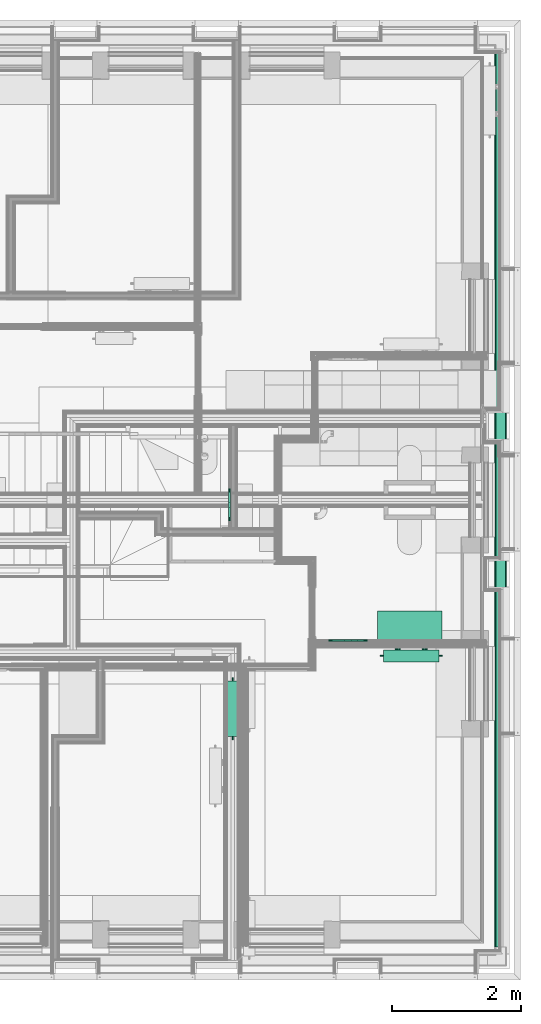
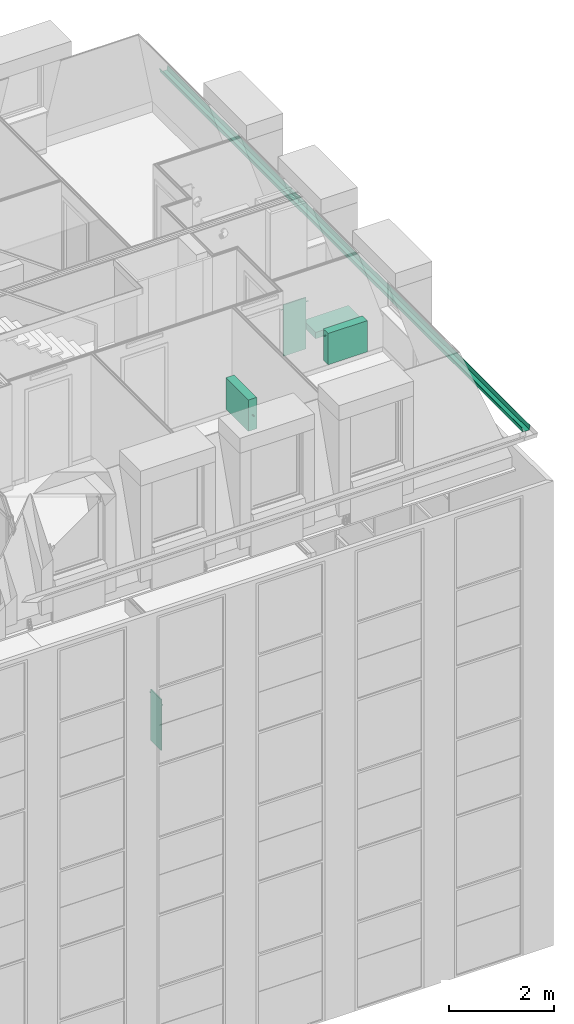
# One storey, part 152 of 169: 5 flow terminals, 1 flow fitting.
"""IFC2X3 building model written with IfcOpenShell, lengths in metres."""

from ifc_helpers import new_model, entity, si_unit, converted_unit, derived_unit, money_unit, direction, frame, origin_with_axes, place, context, subcontext, project, spatial, open_shell, faceted_brep, surface_model, material, type_object, element, save


model = new_model("IFC2X3")

# Units and contexts
model_context = context("Model", 3, precision=1e-05, world=origin_with_axes(), true_north=direction((0.0, 1.0)))
body_context = subcontext(model_context, "Body", "Model", "MODEL_VIEW", scale=1.0)
ifc_project = project(units=[si_unit("LENGTHUNIT", "METRE"), si_unit("AREAUNIT", "SQUARE_METRE"), si_unit("VOLUMEUNIT", "CUBIC_METRE"), si_unit("ABSORBEDDOSEUNIT", "GRAY"), si_unit("AMOUNTOFSUBSTANCEUNIT", "MOLE"), si_unit("DOSEEQUIVALENTUNIT", "SIEVERT"), si_unit("ELECTRICCAPACITANCEUNIT", "FARAD"), si_unit("ELECTRICCHARGEUNIT", "COULOMB"), si_unit("ELECTRICCONDUCTANCEUNIT", "SIEMENS"), si_unit("ELECTRICCURRENTUNIT", "AMPERE"), si_unit("ELECTRICRESISTANCEUNIT", "OHM"), si_unit("ELECTRICVOLTAGEUNIT", "VOLT"), si_unit("ENERGYUNIT", "JOULE"), si_unit("FORCEUNIT", "NEWTON"), si_unit("FREQUENCYUNIT", "HERTZ"), si_unit("ILLUMINANCEUNIT", "LUX"), si_unit("INDUCTANCEUNIT", "HENRY"), si_unit("LUMINOUSFLUXUNIT", "LUMEN"), si_unit("LUMINOUSINTENSITYUNIT", "CANDELA"), si_unit("MAGNETICFLUXDENSITYUNIT", "TESLA"), si_unit("MAGNETICFLUXUNIT", "WEBER"), si_unit("MASSUNIT", "GRAM"), converted_unit("PLANEANGLEUNIT", "degree", entity("IfcReal", 0.0174532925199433), si_unit("PLANEANGLEUNIT", "RADIAN"), dimensions=[0, 0, 0, 0, 0, 0, 0]), si_unit("POWERUNIT", "WATT"), si_unit("PRESSUREUNIT", "PASCAL"), si_unit("RADIOACTIVITYUNIT", "BECQUEREL"), si_unit("SOLIDANGLEUNIT", "STERADIAN"), si_unit("THERMODYNAMICTEMPERATUREUNIT", "KELVIN"), si_unit("TIMEUNIT", "SECOND"), derived_unit("ACCELERATIONUNIT", [(si_unit("LENGTHUNIT", "METRE"), 1), (si_unit("TIMEUNIT", "SECOND"), -2)]), derived_unit("ANGULARVELOCITYUNIT", [(converted_unit("PLANEANGLEUNIT", "degree", entity("IfcReal", 0.0174532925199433), si_unit("PLANEANGLEUNIT", "RADIAN"), dimensions=[0, 0, 0, 0, 0, 0, 0]), 1), (si_unit("TIMEUNIT", "SECOND"), -1)]), derived_unit("CURVATUREUNIT", [(converted_unit("PLANEANGLEUNIT", "degree", entity("IfcReal", 0.0174532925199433), si_unit("PLANEANGLEUNIT", "RADIAN"), dimensions=[0, 0, 0, 0, 0, 0, 0]), 1), (si_unit("LENGTHUNIT", "METRE"), -1)]), derived_unit("DYNAMICVISCOSITYUNIT", [(si_unit("PRESSUREUNIT", "PASCAL"), 1), (si_unit("TIMEUNIT", "SECOND"), 1)]), derived_unit("HEATFLUXDENSITYUNIT", [(si_unit("POWERUNIT", "WATT"), 1), (si_unit("LENGTHUNIT", "METRE"), -2)]), derived_unit("HEATINGVALUEUNIT", [(si_unit("ENERGYUNIT", "JOULE"), 1), (si_unit("MASSUNIT", "GRAM"), -1)]), derived_unit("INTEGERCOUNTRATEUNIT", [(si_unit("TIMEUNIT", "SECOND"), -1)]), derived_unit("IONCONCENTRATIONUNIT", [(si_unit("MASSUNIT", "GRAM"), 1), (si_unit("VOLUMEUNIT", "CUBIC_METRE"), -1)]), derived_unit("ISOTHERMALMOISTURECAPACITYUNIT", [(si_unit("VOLUMEUNIT", "CUBIC_METRE"), 1), (si_unit("MASSUNIT", "GRAM"), -1)]), derived_unit("KINEMATICVISCOSITYUNIT", [(si_unit("AREAUNIT", "SQUARE_METRE"), 1), (si_unit("TIMEUNIT", "SECOND"), -1)]), derived_unit("LINEARFORCEUNIT", [(si_unit("FORCEUNIT", "NEWTON"), 1), (si_unit("LENGTHUNIT", "METRE"), -1)]), derived_unit("LINEARMOMENTUNIT", [(si_unit("FORCEUNIT", "NEWTON"), 1), (si_unit("LENGTHUNIT", "METRE"), -1)]), derived_unit("LINEARSTIFFNESSUNIT", [(si_unit("FORCEUNIT", "NEWTON"), 1), (si_unit("LENGTHUNIT", "METRE"), -1)]), derived_unit("LINEARVELOCITYUNIT", [(si_unit("LENGTHUNIT", "METRE"), 1), (si_unit("TIMEUNIT", "SECOND"), -1)]), derived_unit("LUMINOUSINTENSITYDISTRIBUTIONUNIT", [(si_unit("LUMINOUSINTENSITYUNIT", "CANDELA"), 1), (si_unit("LUMINOUSFLUXUNIT", "LUMEN"), -1)]), derived_unit("MASSDENSITYUNIT", [(si_unit("MASSUNIT", "GRAM"), 1), (si_unit("VOLUMEUNIT", "CUBIC_METRE"), -1)]), derived_unit("MASSFLOWRATEUNIT", [(si_unit("MASSUNIT", "GRAM"), 1), (si_unit("TIMEUNIT", "SECOND"), -1)]), derived_unit("MASSPERLENGTHUNIT", [(si_unit("MASSUNIT", "GRAM"), 1), (si_unit("LENGTHUNIT", "METRE"), -1)]), derived_unit("MODULUSOFELASTICITYUNIT", [(si_unit("FORCEUNIT", "NEWTON"), 1), (si_unit("AREAUNIT", "SQUARE_METRE"), -1)]), derived_unit("MODULUSOFLINEARSUBGRADEREACTIONUNIT", [(si_unit("FORCEUNIT", "NEWTON"), 1), (si_unit("LENGTHUNIT", "METRE"), -2)]), derived_unit("MODULUSOFROTATIONALSUBGRADEREACTIONUNIT", [(si_unit("FORCEUNIT", "NEWTON"), 1), (si_unit("LENGTHUNIT", "METRE"), 1)]), derived_unit("MODULUSOFSUBGRADEREACTIONUNIT", [(si_unit("FORCEUNIT", "NEWTON"), 1), (si_unit("VOLUMEUNIT", "CUBIC_METRE"), -1)]), derived_unit("MOISTUREDIFFUSIVITYUNIT", [(si_unit("VOLUMEUNIT", "CUBIC_METRE"), 1), (si_unit("TIMEUNIT", "SECOND"), -1)]), derived_unit("MOLECULARWEIGHTUNIT", [(si_unit("MASSUNIT", "GRAM"), 1), (si_unit("AMOUNTOFSUBSTANCEUNIT", "MOLE"), -1)]), derived_unit("PLANARFORCEUNIT", [(si_unit("FORCEUNIT", "NEWTON"), 1), (si_unit("LENGTHUNIT", "METRE"), -2)]), derived_unit("ROTATIONALFREQUENCYUNIT", [(si_unit("TIMEUNIT", "SECOND"), -1)]), derived_unit("ROTATIONALMASSUNIT", [(si_unit("MASSUNIT", "GRAM"), 1), (si_unit("LENGTHUNIT", "METRE"), 2)]), derived_unit("ROTATIONALSTIFFNESSUNIT", [(si_unit("FORCEUNIT", "NEWTON"), 1), (si_unit("LENGTHUNIT", "METRE"), 1), (converted_unit("PLANEANGLEUNIT", "degree", entity("IfcReal", 0.0174532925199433), si_unit("PLANEANGLEUNIT", "RADIAN"), dimensions=[0, 0, 0, 0, 0, 0, 0]), -1)]), derived_unit("SECTIONAREAINTEGRALUNIT", [(si_unit("LENGTHUNIT", "METRE"), 5)]), derived_unit("SECTIONMODULUSUNIT", [(si_unit("LENGTHUNIT", "METRE"), 3)]), derived_unit("SHEARMODULUSUNIT", [(si_unit("FORCEUNIT", "NEWTON"), 1), (si_unit("AREAUNIT", "SQUARE_METRE"), -1)]), derived_unit("SOUNDPOWERUNIT", [(si_unit("ENERGYUNIT", "JOULE"), 1), (si_unit("TIMEUNIT", "SECOND"), -1)]), derived_unit("SPECIFICHEATCAPACITYUNIT", [(si_unit("FORCEUNIT", "NEWTON"), 1), (si_unit("MASSUNIT", "GRAM"), -1), (si_unit("THERMODYNAMICTEMPERATUREUNIT", "KELVIN"), -1)]), derived_unit("TEMPERATUREGRADIENTUNIT", [(si_unit("THERMODYNAMICTEMPERATUREUNIT", "KELVIN"), 1), (si_unit("LENGTHUNIT", "METRE"), -1)]), derived_unit("THERMALADMITTANCEUNIT", [(si_unit("POWERUNIT", "WATT"), 1), (si_unit("AREAUNIT", "SQUARE_METRE"), -1), (si_unit("THERMODYNAMICTEMPERATUREUNIT", "KELVIN"), -1)]), derived_unit("THERMALCONDUCTANCEUNIT", [(si_unit("POWERUNIT", "WATT"), 1), (si_unit("LENGTHUNIT", "METRE"), -1), (si_unit("THERMODYNAMICTEMPERATUREUNIT", "KELVIN"), -1)]), derived_unit("THERMALEXPANSIONCOEFFICIENTUNIT", [(si_unit("THERMODYNAMICTEMPERATUREUNIT", "KELVIN"), -1)]), derived_unit("THERMALRESISTANCEUNIT", [(si_unit("AREAUNIT", "SQUARE_METRE"), 1), (si_unit("POWERUNIT", "WATT"), -1)]), derived_unit("THERMALTRANSMITTANCEUNIT", [(si_unit("POWERUNIT", "WATT"), 1), (si_unit("AREAUNIT", "SQUARE_METRE"), -1), (si_unit("THERMODYNAMICTEMPERATUREUNIT", "KELVIN"), -1)]), derived_unit("TORQUEUNIT", [(si_unit("FORCEUNIT", "NEWTON"), 1), (si_unit("LENGTHUNIT", "METRE"), 1)]), derived_unit("VAPORPERMEABILITYUNIT", [(si_unit("MASSUNIT", "GRAM"), 1), (si_unit("TIMEUNIT", "SECOND"), -1)]), derived_unit("VOLUMETRICFLOWRATEUNIT", [(si_unit("VOLUMEUNIT", "CUBIC_METRE"), 1), (si_unit("TIMEUNIT", "SECOND"), -1)]), derived_unit("WARPINGCONSTANTUNIT", [(si_unit("LENGTHUNIT", "METRE"), 6)]), derived_unit("WARPINGMOMENTUNIT", [(si_unit("FORCEUNIT", "NEWTON"), 1), (si_unit("LENGTHUNIT", "METRE"), 2)]), money_unit("GBP")], contexts=[model_context])

# Site, building, storey
site_placement = place(None, origin_with_axes())
site = spatial("IfcSite", under=ifc_project, at=site_placement, Name="Site", CompositionType="ELEMENT")
building_placement = place(site_placement, origin_with_axes())
building = spatial("IfcBuilding", under=site, at=building_placement, Name="Building01", CompositionType="ELEMENT")
storey_placement = place(building_placement, frame((0.0, 0.0, 5.15), z_axis=(0.0, 0.0, 1.0), x_axis=(1.0, 0.0, 0.0)))
storey = spatial("IfcBuildingStorey", under=building, at=storey_placement, Name="1F", CompositionType="ELEMENT", Elevation=5.15)

# Flow fitting
ifc_material_1 = material(Name="A_BSUK_RainwaterDrainageSystems")
pipe_fitting_type = type_object("IfcPipeFittingType", Name="A-RainwaterDrainageSystems-GutterStraight", PredefinedType="NOTDEFINED")
flow_fitting_placement = place(storey_placement, frame((26.576848, 14.385347, 10.629268), z_axis=(0.0, 0.0, 1.0), x_axis=(0.0, -1.0, 0.0)))
element("IfcFlowFitting", 1, at=flow_fitting_placement, inside=storey, type_object=pipe_fitting_type, material=ifc_material_1, Name="A-RainwaterDrainageSystems-GutterStraight", ObjectType="A-RainwaterDrainageSystems-GutterStraight", context=body_context, shape_type="Brep", body=[
    faceted_brep([(13.871001, 0.0, 0.100732), (1e-06, 0.0, 0.100732), (1e-06, 0.0, 0.099144), (13.871001, 0.0, 0.099145), (13.871001, 0.005654, 0.099145), (1e-06, 0.005654, 0.099144), (1e-06, 0.018707, 0.0), (13.871001, 0.018707, 0.0), (1e-06, 0.170099, 0.0), (13.871001, 0.170099, 0.0), (1e-06, 0.183152, 0.099144), (13.871001, 0.183152, 0.099145), (1e-06, 0.188806, 0.099144), (13.871001, 0.188806, 0.099145), (1e-06, 0.188806, 0.100732), (13.871001, 0.188806, 0.100732), (1e-06, 0.18176, 0.100732), (13.871001, 0.18176, 0.100732), (1e-06, 0.168707, 0.001588), (13.871001, 0.168707, 0.001588), (1e-06, 0.020099, 0.001588), (13.871001, 0.020099, 0.001588), (1e-06, 0.007047, 0.100732), (13.871001, 0.007047, 0.100732)], [[[0, 1, 2, 3]], [[4, 5, 6, 7]], [[7, 6, 8, 9]], [[9, 8, 10, 11]], [[11, 10, 12, 13]], [[13, 12, 14, 15]], [[15, 14, 16, 17]], [[17, 16, 18, 19]], [[19, 18, 20, 21]], [[21, 20, 22, 23]], [[23, 22, 1, 0]], [[3, 4, 7, 9, 11, 13, 15, 17, 19, 21, 23, 0]], [[3, 2, 5, 4]], [[1, 22, 20, 18, 16, 14, 12, 10, 8, 6, 5, 2]]]),
])

# Space
space_1_placement = place(storey_placement, frame((17.73844, 7.349915, 9.86), z_axis=(0.0, 0.0, 1.0), x_axis=(0.0, -1.0, 0.0)))
space_1 = spatial("IfcSpace", under=storey, at=space_1_placement, Name="24", CompositionType="ELEMENT", InteriorOrExteriorSpace="NOTDEFINED")

# Flow terminals
ifc_material_2 = material(Name="M_BSUK_Ventilation")
space_heater_type_1 = type_object("IfcSpaceHeaterType", Name="M-BmvRadiatorpanel-Panel", PredefinedType="NOTDEFINED")
flow_terminal_1_placement = place(storey_placement, frame((22.514774, 3.777439, 10.495), z_axis=(0.0, 0.0, 1.0), x_axis=(0.0, -1.0, 0.0)))
element("IfcFlowTerminal", 2, at=flow_terminal_1_placement, inside=space_1, type_object=space_heater_type_1, material=ifc_material_2, Name="M-BmvRadiatorpanel-Panel", ObjectType="M-BmvRadiatorpanel-Panel", context=body_context, shape_type="SurfaceModel", body=[
    surface_model("IfcShellBasedSurfaceModel", [(-0.865, -0.0925, 0.365), (-0.865, 0.0925, 0.365), (0.0, 0.0925, 0.365), (0.0, -0.0925, 0.365), (-0.865, -0.0925, -0.365), (-0.865, 0.0925, -0.365), (0.0, -0.0925, -0.365), (0.0, 0.0925, -0.365), (-0.1325, 0.12025, 0.175), (-0.7325, 0.12025, 0.175), (-0.7325, 0.14525, 0.175), (-0.1325, 0.14525, 0.175), (-0.7325, 0.14525, -0.175), (-0.1325, 0.14525, -0.175), (-0.7325, 0.12025, -0.175), (-0.1325, 0.12025, -0.175), (-0.2225, 0.0925, 0.0775), (-0.2225, 0.12025, 0.0775), (-0.205279, 0.12025, 0.080925), (-0.205279, 0.0925, 0.080925), (-0.19068, 0.12025, 0.09068), (-0.19068, 0.0925, 0.09068), (-0.180925, 0.12025, 0.105279), (-0.180925, 0.0925, 0.105279), (-0.1775, 0.12025, 0.1225), (-0.1775, 0.0925, 0.1225), (-0.180925, 0.12025, 0.139721), (-0.180925, 0.0925, 0.139721), (-0.19068, 0.12025, 0.15432), (-0.19068, 0.0925, 0.15432), (-0.205279, 0.12025, 0.164075), (-0.205279, 0.0925, 0.164075), (-0.2225, 0.12025, 0.1675), (-0.2225, 0.0925, 0.1675), (-0.239721, 0.12025, 0.164075), (-0.239721, 0.0925, 0.164075), (-0.25432, 0.12025, 0.15432), (-0.25432, 0.0925, 0.15432), (-0.264075, 0.12025, 0.139721), (-0.264075, 0.0925, 0.139721), (-0.2675, 0.12025, 0.1225), (-0.2675, 0.0925, 0.1225), (-0.264075, 0.12025, 0.105279), (-0.264075, 0.0925, 0.105279), (-0.25432, 0.12025, 0.09068), (-0.25432, 0.0925, 0.09068), (-0.239721, 0.12025, 0.080925), (-0.239721, 0.0925, 0.080925), (-0.6425, 0.0925, 0.0775), (-0.6425, 0.12025, 0.0775), (-0.625279, 0.12025, 0.080925), (-0.625279, 0.0925, 0.080925), (-0.61068, 0.12025, 0.09068), (-0.61068, 0.0925, 0.09068), (-0.600925, 0.12025, 0.105279), (-0.600925, 0.0925, 0.105279), (-0.5975, 0.12025, 0.1225), (-0.5975, 0.0925, 0.1225), (-0.600925, 0.12025, 0.139721), (-0.600925, 0.0925, 0.139721), (-0.61068, 0.12025, 0.15432), (-0.61068, 0.0925, 0.15432), (-0.625279, 0.12025, 0.164075), (-0.625279, 0.0925, 0.164075), (-0.6425, 0.12025, 0.1675), (-0.6425, 0.0925, 0.1675), (-0.659721, 0.12025, 0.164075), (-0.659721, 0.0925, 0.164075), (-0.67432, 0.12025, 0.15432), (-0.67432, 0.0925, 0.15432), (-0.684075, 0.12025, 0.139721), (-0.684075, 0.0925, 0.139721), (-0.6875, 0.12025, 0.1225), (-0.6875, 0.0925, 0.1225), (-0.684075, 0.12025, 0.105279), (-0.684075, 0.0925, 0.105279), (-0.67432, 0.12025, 0.09068), (-0.67432, 0.0925, 0.09068), (-0.659721, 0.12025, 0.080925), (-0.659721, 0.0925, 0.080925), (0.05, 0.0, -0.0225), (0.0, 0.0, -0.0225), (0.0, 0.004784, -0.021548), (0.05, 0.004784, -0.021548), (0.0, 0.008839, -0.018839), (0.05, 0.008839, -0.018839), (0.0, 0.011548, -0.014784), (0.05, 0.011548, -0.014784), (0.0, 0.0125, -0.01), (0.05, 0.0125, -0.01), (0.0, 0.011548, -0.005216), (0.05, 0.011548, -0.005216), (0.0, 0.008839, -0.001161), (0.05, 0.008839, -0.001161), (0.0, 0.004784, 0.001548), (0.05, 0.004784, 0.001548), (0.0, 0.0, 0.0025), (0.05, 0.0, 0.0025), (0.0, -0.004784, 0.001548), (0.05, -0.004784, 0.001548), (0.0, -0.008839, -0.001161), (0.05, -0.008839, -0.001161), (0.0, -0.011548, -0.005216), (0.05, -0.011548, -0.005216), (0.0, -0.0125, -0.01), (0.05, -0.0125, -0.01), (0.0, -0.011548, -0.014784), (0.05, -0.011548, -0.014784), (0.0, -0.008839, -0.018839), (0.05, -0.008839, -0.018839), (0.0, -0.004784, -0.021548), (0.05, -0.004784, -0.021548), (-0.915, 0.0, 0.2525), (-0.865, 0.0, 0.2525), (-0.865, -0.004784, 0.253452), (-0.915, -0.004784, 0.253452), (-0.865, -0.008839, 0.256161), (-0.915, -0.008839, 0.256161), (-0.865, -0.011548, 0.260216), (-0.915, -0.011548, 0.260216), (-0.865, -0.0125, 0.265), (-0.915, -0.0125, 0.265), (-0.865, -0.011548, 0.269784), (-0.915, -0.011548, 0.269784), (-0.865, -0.008839, 0.273839), (-0.915, -0.008839, 0.273839), (-0.865, -0.004784, 0.276548), (-0.915, -0.004784, 0.276548), (-0.865, 0.0, 0.2775), (-0.915, 0.0, 0.2775), (-0.865, 0.004784, 0.276548), (-0.915, 0.004784, 0.276548), (-0.865, 0.008839, 0.273839), (-0.915, 0.008839, 0.273839), (-0.865, 0.011548, 0.269784), (-0.915, 0.011548, 0.269784), (-0.865, 0.0125, 0.265), (-0.915, 0.0125, 0.265), (-0.865, 0.011548, 0.260216), (-0.915, 0.011548, 0.260216), (-0.865, 0.008839, 0.256161), (-0.915, 0.008839, 0.256161), (-0.865, 0.004784, 0.253452), (-0.915, 0.004784, 0.253452)], [open_shell([[[0, 1, 2, 3]], [[4, 5, 1, 0]], [[6, 7, 5, 4]], [[3, 2, 7, 6]], [[1, 5, 7, 2]], [[3, 6, 4, 0]], [[8, 9, 10, 11]], [[11, 10, 12, 13]], [[13, 12, 14, 15]], [[15, 14, 9, 8]], [[9, 14, 12, 10]], [[11, 13, 15, 8]], [[16, 17, 18, 19]], [[19, 18, 20, 21]], [[21, 20, 22, 23]], [[23, 22, 24, 25]], [[25, 24, 26, 27]], [[27, 26, 28, 29]], [[29, 28, 30, 31]], [[31, 30, 32, 33]], [[33, 32, 34, 35]], [[35, 34, 36, 37]], [[37, 36, 38, 39]], [[39, 38, 40, 41]], [[41, 40, 42, 43]], [[43, 42, 44, 45]], [[45, 44, 46, 47]], [[47, 46, 17, 16]], [[48, 49, 50, 51]], [[51, 50, 52, 53]], [[53, 52, 54, 55]], [[55, 54, 56, 57]], [[57, 56, 58, 59]], [[59, 58, 60, 61]], [[61, 60, 62, 63]], [[63, 62, 64, 65]], [[65, 64, 66, 67]], [[67, 66, 68, 69]], [[69, 68, 70, 71]], [[71, 70, 72, 73]], [[73, 72, 74, 75]], [[75, 74, 76, 77]], [[77, 76, 78, 79]], [[79, 78, 49, 48]], [[80, 81, 82, 83]], [[83, 82, 84, 85]], [[85, 84, 86, 87]], [[87, 86, 88, 89]], [[89, 88, 90, 91]], [[91, 90, 92, 93]], [[93, 92, 94, 95]], [[95, 94, 96, 97]], [[97, 96, 98, 99]], [[99, 98, 100, 101]], [[101, 100, 102, 103]], [[103, 102, 104, 105]], [[105, 104, 106, 107]], [[107, 106, 108, 109]], [[109, 108, 110, 111]], [[111, 110, 81, 80]], [[112, 113, 114, 115]], [[115, 114, 116, 117]], [[117, 116, 118, 119]], [[119, 118, 120, 121]], [[121, 120, 122, 123]], [[123, 122, 124, 125]], [[125, 124, 126, 127]], [[127, 126, 128, 129]], [[129, 128, 130, 131]], [[131, 130, 132, 133]], [[133, 132, 134, 135]], [[135, 134, 136, 137]], [[137, 136, 138, 139]], [[139, 138, 140, 141]], [[141, 140, 142, 143]], [[143, 142, 113, 112]]])]),
])
flow_terminal_2_placement = place(storey_placement, frame((25.717389, 5.029726, 10.495), z_axis=(0.0, 0.0, 1.0), x_axis=(1.0, 0.0, 0.0)))
element("IfcFlowTerminal", 3, at=flow_terminal_2_placement, inside=space_1, type_object=space_heater_type_1, material=ifc_material_2, Name="M-BmvRadiatorpanel-Panel", ObjectType="M-BmvRadiatorpanel-Panel", context=body_context, shape_type="SurfaceModel", body=[
    surface_model("IfcShellBasedSurfaceModel", [(-0.865, -0.0925, 0.365), (-0.865, 0.0925, 0.365), (0.0, 0.0925, 0.365), (0.0, -0.0925, 0.365), (-0.865, -0.0925, -0.365), (-0.865, 0.0925, -0.365), (0.0, -0.0925, -0.365), (0.0, 0.0925, -0.365), (-0.1325, 0.12025, 0.175), (-0.7325, 0.12025, 0.175), (-0.7325, 0.14525, 0.175), (-0.1325, 0.14525, 0.175), (-0.7325, 0.14525, -0.175), (-0.1325, 0.14525, -0.175), (-0.7325, 0.12025, -0.175), (-0.1325, 0.12025, -0.175), (-0.2225, 0.0925, 0.0775), (-0.2225, 0.12025, 0.0775), (-0.205279, 0.12025, 0.080925), (-0.205279, 0.0925, 0.080925), (-0.19068, 0.12025, 0.09068), (-0.19068, 0.0925, 0.09068), (-0.180925, 0.12025, 0.105279), (-0.180925, 0.0925, 0.105279), (-0.1775, 0.12025, 0.1225), (-0.1775, 0.0925, 0.1225), (-0.180925, 0.12025, 0.139721), (-0.180925, 0.0925, 0.139721), (-0.19068, 0.12025, 0.15432), (-0.19068, 0.0925, 0.15432), (-0.205279, 0.12025, 0.164075), (-0.205279, 0.0925, 0.164075), (-0.2225, 0.12025, 0.1675), (-0.2225, 0.0925, 0.1675), (-0.239721, 0.12025, 0.164075), (-0.239721, 0.0925, 0.164075), (-0.25432, 0.12025, 0.15432), (-0.25432, 0.0925, 0.15432), (-0.264075, 0.12025, 0.139721), (-0.264075, 0.0925, 0.139721), (-0.2675, 0.12025, 0.1225), (-0.2675, 0.0925, 0.1225), (-0.264075, 0.12025, 0.105279), (-0.264075, 0.0925, 0.105279), (-0.25432, 0.12025, 0.09068), (-0.25432, 0.0925, 0.09068), (-0.239721, 0.12025, 0.080925), (-0.239721, 0.0925, 0.080925), (-0.6425, 0.0925, 0.0775), (-0.6425, 0.12025, 0.0775), (-0.625279, 0.12025, 0.080925), (-0.625279, 0.0925, 0.080925), (-0.61068, 0.12025, 0.09068), (-0.61068, 0.0925, 0.09068), (-0.600925, 0.12025, 0.105279), (-0.600925, 0.0925, 0.105279), (-0.5975, 0.12025, 0.1225), (-0.5975, 0.0925, 0.1225), (-0.600925, 0.12025, 0.139721), (-0.600925, 0.0925, 0.139721), (-0.61068, 0.12025, 0.15432), (-0.61068, 0.0925, 0.15432), (-0.625279, 0.12025, 0.164075), (-0.625279, 0.0925, 0.164075), (-0.6425, 0.12025, 0.1675), (-0.6425, 0.0925, 0.1675), (-0.659721, 0.12025, 0.164075), (-0.659721, 0.0925, 0.164075), (-0.67432, 0.12025, 0.15432), (-0.67432, 0.0925, 0.15432), (-0.684075, 0.12025, 0.139721), (-0.684075, 0.0925, 0.139721), (-0.6875, 0.12025, 0.1225), (-0.6875, 0.0925, 0.1225), (-0.684075, 0.12025, 0.105279), (-0.684075, 0.0925, 0.105279), (-0.67432, 0.12025, 0.09068), (-0.67432, 0.0925, 0.09068), (-0.659721, 0.12025, 0.080925), (-0.659721, 0.0925, 0.080925), (0.05, 0.0, -0.0225), (0.0, 0.0, -0.0225), (0.0, 0.004784, -0.021548), (0.05, 0.004784, -0.021548), (0.0, 0.008839, -0.018839), (0.05, 0.008839, -0.018839), (0.0, 0.011548, -0.014784), (0.05, 0.011548, -0.014784), (0.0, 0.0125, -0.01), (0.05, 0.0125, -0.01), (0.0, 0.011548, -0.005216), (0.05, 0.011548, -0.005216), (0.0, 0.008839, -0.001161), (0.05, 0.008839, -0.001161), (0.0, 0.004784, 0.001548), (0.05, 0.004784, 0.001548), (0.0, 0.0, 0.0025), (0.05, 0.0, 0.0025), (0.0, -0.004784, 0.001548), (0.05, -0.004784, 0.001548), (0.0, -0.008839, -0.001161), (0.05, -0.008839, -0.001161), (0.0, -0.011548, -0.005216), (0.05, -0.011548, -0.005216), (0.0, -0.0125, -0.01), (0.05, -0.0125, -0.01), (0.0, -0.011548, -0.014784), (0.05, -0.011548, -0.014784), (0.0, -0.008839, -0.018839), (0.05, -0.008839, -0.018839), (0.0, -0.004784, -0.021548), (0.05, -0.004784, -0.021548), (-0.915, 0.0, 0.2525), (-0.865, 0.0, 0.2525), (-0.865, -0.004784, 0.253452), (-0.915, -0.004784, 0.253452), (-0.865, -0.008839, 0.256161), (-0.915, -0.008839, 0.256161), (-0.865, -0.011548, 0.260216), (-0.915, -0.011548, 0.260216), (-0.865, -0.0125, 0.265), (-0.915, -0.0125, 0.265), (-0.865, -0.011548, 0.269784), (-0.915, -0.011548, 0.269784), (-0.865, -0.008839, 0.273839), (-0.915, -0.008839, 0.273839), (-0.865, -0.004784, 0.276548), (-0.915, -0.004784, 0.276548), (-0.865, 0.0, 0.2775), (-0.915, 0.0, 0.2775), (-0.865, 0.004784, 0.276548), (-0.915, 0.004784, 0.276548), (-0.865, 0.008839, 0.273839), (-0.915, 0.008839, 0.273839), (-0.865, 0.011548, 0.269784), (-0.915, 0.011548, 0.269784), (-0.865, 0.0125, 0.265), (-0.915, 0.0125, 0.265), (-0.865, 0.011548, 0.260216), (-0.915, 0.011548, 0.260216), (-0.865, 0.008839, 0.256161), (-0.915, 0.008839, 0.256161), (-0.865, 0.004784, 0.253452), (-0.915, 0.004784, 0.253452)], [open_shell([[[0, 1, 2, 3]], [[4, 5, 1, 0]], [[6, 7, 5, 4]], [[3, 2, 7, 6]], [[1, 5, 7, 2]], [[3, 6, 4, 0]], [[8, 9, 10, 11]], [[11, 10, 12, 13]], [[13, 12, 14, 15]], [[15, 14, 9, 8]], [[9, 14, 12, 10]], [[11, 13, 15, 8]], [[16, 17, 18, 19]], [[19, 18, 20, 21]], [[21, 20, 22, 23]], [[23, 22, 24, 25]], [[25, 24, 26, 27]], [[27, 26, 28, 29]], [[29, 28, 30, 31]], [[31, 30, 32, 33]], [[33, 32, 34, 35]], [[35, 34, 36, 37]], [[37, 36, 38, 39]], [[39, 38, 40, 41]], [[41, 40, 42, 43]], [[43, 42, 44, 45]], [[45, 44, 46, 47]], [[47, 46, 17, 16]], [[48, 49, 50, 51]], [[51, 50, 52, 53]], [[53, 52, 54, 55]], [[55, 54, 56, 57]], [[57, 56, 58, 59]], [[59, 58, 60, 61]], [[61, 60, 62, 63]], [[63, 62, 64, 65]], [[65, 64, 66, 67]], [[67, 66, 68, 69]], [[69, 68, 70, 71]], [[71, 70, 72, 73]], [[73, 72, 74, 75]], [[75, 74, 76, 77]], [[77, 76, 78, 79]], [[79, 78, 49, 48]], [[80, 81, 82, 83]], [[83, 82, 84, 85]], [[85, 84, 86, 87]], [[87, 86, 88, 89]], [[89, 88, 90, 91]], [[91, 90, 92, 93]], [[93, 92, 94, 95]], [[95, 94, 96, 97]], [[97, 96, 98, 99]], [[99, 98, 100, 101]], [[101, 100, 102, 103]], [[103, 102, 104, 105]], [[105, 104, 106, 107]], [[107, 106, 108, 109]], [[109, 108, 110, 111]], [[111, 110, 81, 80]], [[112, 113, 114, 115]], [[115, 114, 116, 117]], [[117, 116, 118, 119]], [[119, 118, 120, 121]], [[121, 120, 122, 123]], [[123, 122, 124, 125]], [[125, 124, 126, 127]], [[127, 126, 128, 129]], [[129, 128, 130, 131]], [[131, 130, 132, 133]], [[133, 132, 134, 135]], [[135, 134, 136, 137]], [[137, 136, 138, 139]], [[139, 138, 140, 141]], [[141, 140, 142, 143]], [[143, 142, 113, 112]]])]),
])

# Space
space_2_placement = place(storey_placement, frame((20.122661, 7.25, 0.017975), z_axis=(0.0, 0.0, 1.0), x_axis=(1.0, 0.0, 0.0)))
space_2 = spatial("IfcSpace", under=storey, at=space_2_placement, Name="bath", CompositionType="ELEMENT", InteriorOrExteriorSpace="NOTDEFINED")

# Flow terminals
space_heater_type_2 = type_object("IfcSpaceHeaterType", Name="M-BmvRadiator-Column", PredefinedType="NOTDEFINED")
flow_terminal_3_placement = place(storey_placement, frame((22.464161, 7.175, 1.2), z_axis=(0.0, 0.0, 1.0), x_axis=(0.0, -1.0, 0.0)))
element("IfcFlowTerminal", 4, at=flow_terminal_3_placement, inside=space_2, type_object=space_heater_type_2, material=ifc_material_2, Name="M-BmvRadiator-Column", ObjectType="M-BmvRadiator-Column", context=body_context, shape_type="SurfaceModel", body=[
    surface_model("IfcShellBasedSurfaceModel", [(0.0, -0.0125, 0.6), (0.0, -0.0125, -0.6), (0.0, 0.0125, -0.6), (0.0, 0.0125, 0.6), (-0.4, -0.0125, 0.6), (-0.4, -0.0125, -0.6), (-0.4, 0.0125, -0.6), (-0.4, 0.0125, 0.6), (-0.08, 0.0125, 0.6), (-0.08, -0.0125, 0.6), (-0.08, -0.0125, -0.6), (-0.08, 0.0125, -0.6), (-0.16, 0.0125, 0.6), (-0.16, -0.0125, 0.6), (-0.16, -0.0125, -0.6), (-0.16, 0.0125, -0.6), (-0.24, 0.0125, 0.6), (-0.24, -0.0125, 0.6), (-0.24, -0.0125, -0.6), (-0.24, 0.0125, -0.6), (-0.32, 0.0125, 0.6), (-0.32, -0.0125, 0.6), (-0.32, -0.0125, -0.6), (-0.32, 0.0125, -0.6), (0.05, 0.0, 0.4825), (0.0, 0.0, 0.4825), (0.0, 0.003827, 0.483261), (0.05, 0.003827, 0.483261), (0.0, 0.007071, 0.485429), (0.05, 0.007071, 0.485429), (0.0, 0.009239, 0.488673), (0.05, 0.009239, 0.488673), (0.0, 0.01, 0.4925), (0.05, 0.01, 0.4925), (0.0, 0.009239, 0.496327), (0.05, 0.009239, 0.496327), (0.0, 0.007071, 0.499571), (0.05, 0.007071, 0.499571), (0.0, 0.003827, 0.501739), (0.05, 0.003827, 0.501739), (0.0, 0.0, 0.5025), (0.05, 0.0, 0.5025), (0.0, -0.003827, 0.501739), (0.05, -0.003827, 0.501739), (0.0, -0.007071, 0.499571), (0.05, -0.007071, 0.499571), (0.0, -0.009239, 0.496327), (0.05, -0.009239, 0.496327), (0.0, -0.01, 0.4925), (0.05, -0.01, 0.4925), (0.0, -0.009239, 0.488673), (0.05, -0.009239, 0.488673), (0.0, -0.007071, 0.485429), (0.05, -0.007071, 0.485429), (0.0, -0.003827, 0.483261), (0.05, -0.003827, 0.483261), (-0.45, 0.0, 0.4884), (-0.4, 0.0, 0.4884), (-0.4, -0.003827, 0.489161), (-0.45, -0.003827, 0.489161), (-0.4, -0.007071, 0.491329), (-0.45, -0.007071, 0.491329), (-0.4, -0.009239, 0.494573), (-0.45, -0.009239, 0.494573), (-0.4, -0.01, 0.4984), (-0.45, -0.01, 0.4984), (-0.4, -0.009239, 0.502227), (-0.45, -0.009239, 0.502227), (-0.4, -0.007071, 0.505471), (-0.45, -0.007071, 0.505471), (-0.4, -0.003827, 0.507639), (-0.45, -0.003827, 0.507639), (-0.4, 0.0, 0.5084), (-0.45, 0.0, 0.5084), (-0.4, 0.003827, 0.507639), (-0.45, 0.003827, 0.507639), (-0.4, 0.007071, 0.505471), (-0.45, 0.007071, 0.505471), (-0.4, 0.009239, 0.502227), (-0.45, 0.009239, 0.502227), (-0.4, 0.01, 0.4984), (-0.45, 0.01, 0.4984), (-0.4, 0.009239, 0.494573), (-0.45, 0.009239, 0.494573), (-0.4, 0.007071, 0.491329), (-0.45, 0.007071, 0.491329), (-0.4, 0.003827, 0.489161), (-0.45, 0.003827, 0.489161)], [open_shell([[[0, 1, 2, 3]], [[4, 5, 6, 7]], [[8, 3, 0, 9]], [[9, 0, 1, 10]], [[10, 1, 2, 11]], [[11, 2, 3, 8]], [[12, 8, 9, 13]], [[13, 9, 10, 14]], [[14, 10, 11, 15]], [[15, 11, 8, 12]], [[16, 12, 13, 17]], [[17, 13, 14, 18]], [[18, 14, 15, 19]], [[19, 15, 12, 16]], [[20, 16, 17, 21]], [[21, 17, 18, 22]], [[22, 18, 19, 23]], [[23, 19, 16, 20]], [[7, 20, 21, 4]], [[4, 21, 22, 5]], [[5, 22, 23, 6]], [[6, 23, 20, 7]], [[24, 25, 26, 27]], [[27, 26, 28, 29]], [[29, 28, 30, 31]], [[31, 30, 32, 33]], [[33, 32, 34, 35]], [[35, 34, 36, 37]], [[37, 36, 38, 39]], [[39, 38, 40, 41]], [[41, 40, 42, 43]], [[43, 42, 44, 45]], [[45, 44, 46, 47]], [[47, 46, 48, 49]], [[49, 48, 50, 51]], [[51, 50, 52, 53]], [[53, 52, 54, 55]], [[55, 54, 25, 24]], [[56, 57, 58, 59]], [[59, 58, 60, 61]], [[61, 60, 62, 63]], [[63, 62, 64, 65]], [[65, 64, 66, 67]], [[67, 66, 68, 69]], [[69, 68, 70, 71]], [[71, 70, 72, 73]], [[73, 72, 74, 75]], [[75, 74, 76, 77]], [[77, 76, 78, 79]], [[79, 78, 80, 81]], [[81, 80, 82, 83]], [[83, 82, 84, 85]], [[85, 84, 86, 87]], [[87, 86, 57, 56]]])]),
])
flow_terminal_4_placement = place(storey_placement, frame((24.052355, 5.268454, 11.015), z_axis=(0.0, 0.0, 1.0), x_axis=(1.0, 0.0, 0.0)))
element("IfcFlowTerminal", 5, at=flow_terminal_4_placement, inside=space_1, type_object=space_heater_type_2, material=ifc_material_2, Name="M-BmvRadiator-Column", ObjectType="M-BmvRadiator-Column", context=body_context, shape_type="SurfaceModel", body=[
    surface_model("IfcShellBasedSurfaceModel", [(0.0, -0.0125, 0.6), (0.0, -0.0125, -0.6), (0.0, 0.0125, -0.6), (0.0, 0.0125, 0.6), (0.5, -0.0125, 0.6), (0.5, -0.0125, -0.6), (0.5, 0.0125, -0.6), (0.5, 0.0125, 0.6), (0.1, 0.0125, 0.6), (0.1, -0.0125, 0.6), (0.1, -0.0125, -0.6), (0.1, 0.0125, -0.6), (0.2, 0.0125, 0.6), (0.2, -0.0125, 0.6), (0.2, -0.0125, -0.6), (0.2, 0.0125, -0.6), (0.3, 0.0125, 0.6), (0.3, -0.0125, 0.6), (0.3, -0.0125, -0.6), (0.3, 0.0125, -0.6), (0.4, 0.0125, 0.6), (0.4, -0.0125, 0.6), (0.4, -0.0125, -0.6), (0.4, 0.0125, -0.6), (-0.05, 0.0, 0.4825), (0.0, 0.0, 0.4825), (0.0, -0.003827, 0.483261), (-0.05, -0.003827, 0.483261), (0.0, -0.007071, 0.485429), (-0.05, -0.007071, 0.485429), (0.0, -0.009239, 0.488673), (-0.05, -0.009239, 0.488673), (0.0, -0.01, 0.4925), (-0.05, -0.01, 0.4925), (0.0, -0.009239, 0.496327), (-0.05, -0.009239, 0.496327), (0.0, -0.007071, 0.499571), (-0.05, -0.007071, 0.499571), (0.0, -0.003827, 0.501739), (-0.05, -0.003827, 0.501739), (0.0, 0.0, 0.5025), (-0.05, 0.0, 0.5025), (0.0, 0.003827, 0.501739), (-0.05, 0.003827, 0.501739), (0.0, 0.007071, 0.499571), (-0.05, 0.007071, 0.499571), (0.0, 0.009239, 0.496327), (-0.05, 0.009239, 0.496327), (0.0, 0.01, 0.4925), (-0.05, 0.01, 0.4925), (0.0, 0.009239, 0.488673), (-0.05, 0.009239, 0.488673), (0.0, 0.007071, 0.485429), (-0.05, 0.007071, 0.485429), (0.0, 0.003827, 0.483261), (-0.05, 0.003827, 0.483261), (0.55, 0.0, 0.4884), (0.5, 0.0, 0.4884), (0.5, 0.003827, 0.489161), (0.55, 0.003827, 0.489161), (0.5, 0.007071, 0.491329), (0.55, 0.007071, 0.491329), (0.5, 0.009239, 0.494573), (0.55, 0.009239, 0.494573), (0.5, 0.01, 0.4984), (0.55, 0.01, 0.4984), (0.5, 0.009239, 0.502227), (0.55, 0.009239, 0.502227), (0.5, 0.007071, 0.505471), (0.55, 0.007071, 0.505471), (0.5, 0.003827, 0.507639), (0.55, 0.003827, 0.507639), (0.5, 0.0, 0.5084), (0.55, 0.0, 0.5084), (0.5, -0.003827, 0.507639), (0.55, -0.003827, 0.507639), (0.5, -0.007071, 0.505471), (0.55, -0.007071, 0.505471), (0.5, -0.009239, 0.502227), (0.55, -0.009239, 0.502227), (0.5, -0.01, 0.4984), (0.55, -0.01, 0.4984), (0.5, -0.009239, 0.494573), (0.55, -0.009239, 0.494573), (0.5, -0.007071, 0.491329), (0.55, -0.007071, 0.491329), (0.5, -0.003827, 0.489161), (0.55, -0.003827, 0.489161)], [open_shell([[[0, 1, 2, 3]], [[4, 5, 6, 7]], [[8, 3, 0, 9]], [[9, 0, 1, 10]], [[10, 1, 2, 11]], [[11, 2, 3, 8]], [[12, 8, 9, 13]], [[13, 9, 10, 14]], [[14, 10, 11, 15]], [[15, 11, 8, 12]], [[16, 12, 13, 17]], [[17, 13, 14, 18]], [[18, 14, 15, 19]], [[19, 15, 12, 16]], [[20, 16, 17, 21]], [[21, 17, 18, 22]], [[22, 18, 19, 23]], [[23, 19, 16, 20]], [[7, 20, 21, 4]], [[4, 21, 22, 5]], [[5, 22, 23, 6]], [[6, 23, 20, 7]], [[24, 25, 26, 27]], [[27, 26, 28, 29]], [[29, 28, 30, 31]], [[31, 30, 32, 33]], [[33, 32, 34, 35]], [[35, 34, 36, 37]], [[37, 36, 38, 39]], [[39, 38, 40, 41]], [[41, 40, 42, 43]], [[43, 42, 44, 45]], [[45, 44, 46, 47]], [[47, 46, 48, 49]], [[49, 48, 50, 51]], [[51, 50, 52, 53]], [[53, 52, 54, 55]], [[55, 54, 25, 24]], [[56, 57, 58, 59]], [[59, 58, 60, 61]], [[61, 60, 62, 63]], [[63, 62, 64, 65]], [[65, 64, 66, 67]], [[67, 66, 68, 69]], [[69, 68, 70, 71]], [[71, 70, 72, 73]], [[73, 72, 74, 75]], [[75, 74, 76, 77]], [[77, 76, 78, 79]], [[79, 78, 80, 81]], [[81, 80, 82, 83]], [[83, 82, 84, 85]], [[85, 84, 86, 87]], [[87, 86, 57, 56]]])]),
])
sanitary_terminal_type = type_object("IfcSanitaryTerminalType", Name="SHE_A-Sink_47x100", PredefinedType="NOTDEFINED")
flow_terminal_5_placement = place(storey_placement, frame((25.258813, 5.489915, 10.650999), z_axis=(0.0, 0.0, 1.0), x_axis=(0.0, 1.0, 0.0)))
element("IfcFlowTerminal", 6, at=flow_terminal_5_placement, inside=space_1, type_object=sanitary_terminal_type, Name="24", ObjectType="SHE_A-Sink_47x100", context=body_context, shape_type="Brep", body=[
    faceted_brep([(-0.235, 0.5, -0.075), (-0.235, 0.5, 0.075001), (0.235, 0.5, 0.075001), (0.235, 0.5, -0.075), (0.235, -0.5, 0.075001), (0.235, -0.5, -0.075), (-0.235, -0.5, 0.075001), (-0.235, -0.5, -0.075)], [[[0, 1, 2, 3]], [[3, 2, 4, 5]], [[5, 4, 6, 7]], [[7, 6, 1, 0]], [[1, 6, 4, 2]], [[3, 5, 7, 0]]]),
])

save(model, "model.ifc")
